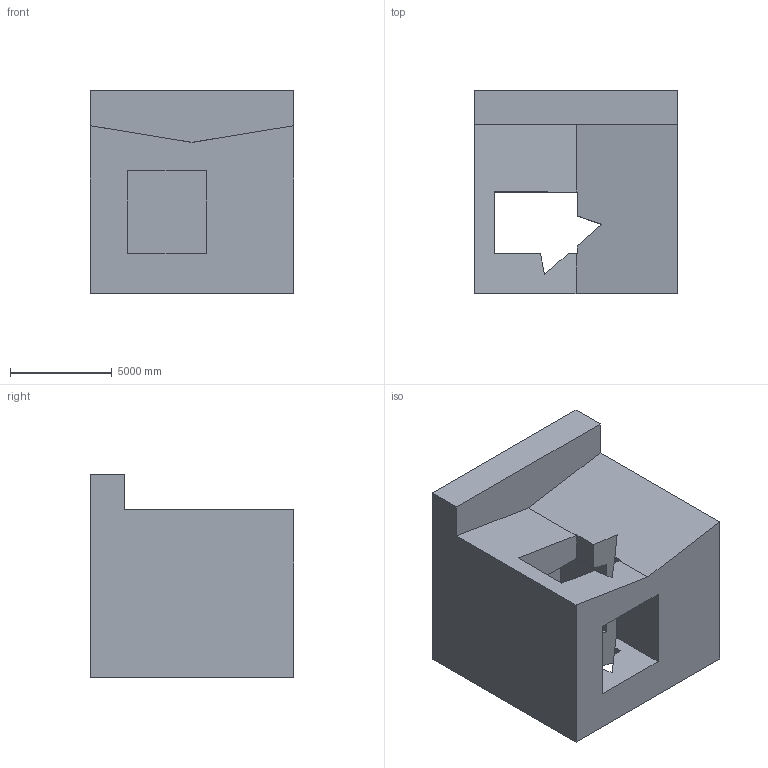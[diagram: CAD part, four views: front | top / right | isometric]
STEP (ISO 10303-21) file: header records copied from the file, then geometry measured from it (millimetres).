
FILE_DESCRIPTION (( 'STEP AP203' ), '1' );
FILE_NAME ('77.STEP', '2022-08-31T11:25:56', ( 'user' ), ( '' ), 'SwSTEP 2.0', 'SolidWorks 2021', '' );
FILE_SCHEMA (( 'CONFIG_CONTROL_DESIGN' ));
Length unit declared in the file: centimetre
Products named in the file (1): 77
Bounding box: 10000 x 10000 x 10000 mm (x, y, z)
Volume: 652162561016.7 mm3; surface area: 701002733.4 mm2
Topology: 1 solids, 1 shells, 33 faces, 99 edges, 66 vertices
Faces by surface type: plane 33
Entity records: 1178 total; most frequent: CARTESIAN_POINT 199, ORIENTED_EDGE 198, DIRECTION 167, EDGE_CURVE 99, VECTOR 99, LINE 99, VERTEX_POINT 66, EDGE_LOOP 35
